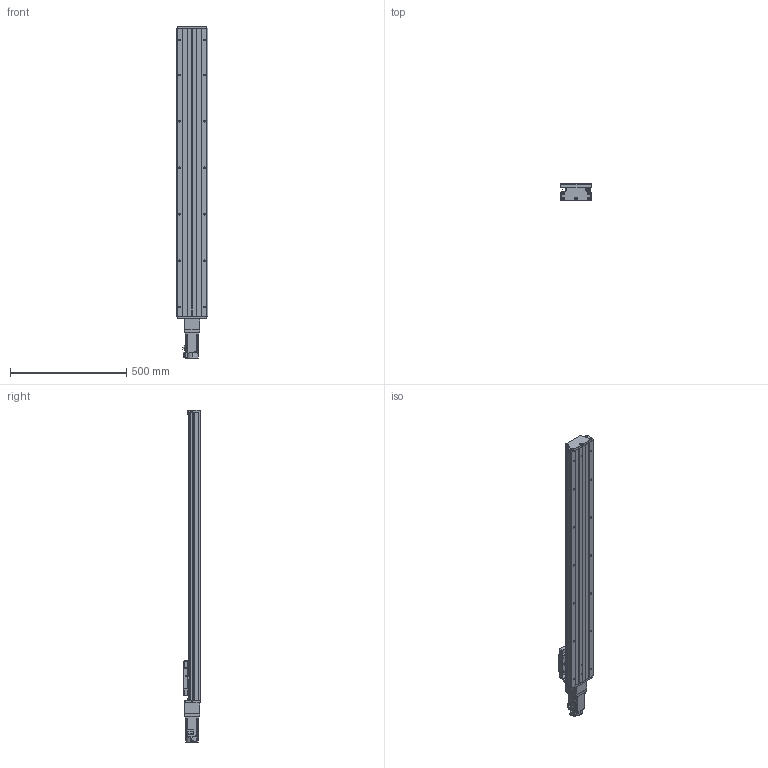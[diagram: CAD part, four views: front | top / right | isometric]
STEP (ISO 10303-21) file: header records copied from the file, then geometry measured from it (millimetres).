
FILE_DESCRIPTION (( 'STEP AP203' ), '1' );
FILE_NAME ('CTH130-1050-BC-M40-C4.step', '2023-06-30T02:31:09', ( '微软用户' ), ( '微软中国' ), 'SwSTEP 2.0', 'SolidWorks 2020', '' );
FILE_SCHEMA (( 'CONFIG_CONTROL_DESIGN' ));
Length unit declared in the file: millimetre
Products named in the file (21): GB T308.1-2013-6.35; CTHA60-016; CTHA86-013; GTH14-004; GBT 70.1-M3℅5; CTHA86-027-1; GTH14-005; GBT77-2000 M3×3; GBT 70.3-M3℅8; GB1155-6X6; CTH130-031; HG-KN43J-S100; GBT70.1 M5℅16; GBT 70.2-M3¡Á5_M3¡Á6; CTH130-1050-BC-M40-C4; GTH14-001_1050; CTHA60-017; す晦芛蹟隊 M3℅5; CTH130-002_GTH14-002; EE_SX911P_R; CTHA86-006-1_M40
Assembly tree (59 placements, depth 2):
  CTH130-1050-BC-M40-C4
    GTH14-001_1050
    CTH130-002_GTH14-002
    GB T308.1-2013-6.35  x2
    GTH14-004
    GTH14-005
    GB1155-6X6  x2
    GBT70.1 M5℅16  x10
    CTHA60-017  x3
    EE_SX911P_R  x3
    CTHA60-016  x2
    GBT 70.1-M3℅5  x6
    GBT77-2000 M3×3  x6
    CTH130-031
    GBT 70.2-M3¡Á5_M3¡Á6  x8
    す晦芛蹟隊 M3℅5  x6
    CTHA86-006-1_M40
    CTHA86-013
    CTHA86-027-1
    GBT 70.3-M3℅8  x2
    HG-KN43J-S100
Bounding box: 135 x 76 x 1428.7 mm (x, y, z)
Volume: 6885564.4 mm3; surface area: 1052939.6 mm2
Topology: 62 solids, 62 shells, 2400 faces, 5729 edges, 3551 vertices
Faces by surface type: plane 1307, cylinder 642, cone 287, torus 120, sphere 24, bspline 20
Entity records: 44296 total; most frequent: CARTESIAN_POINT 9905, DIRECTION 6451, ORIENTED_EDGE 6358, EDGE_CURVE 3179, AXIS2_PLACEMENT_3D 2193, VECTOR 2065, LINE 2065, VERTEX_POINT 2011
